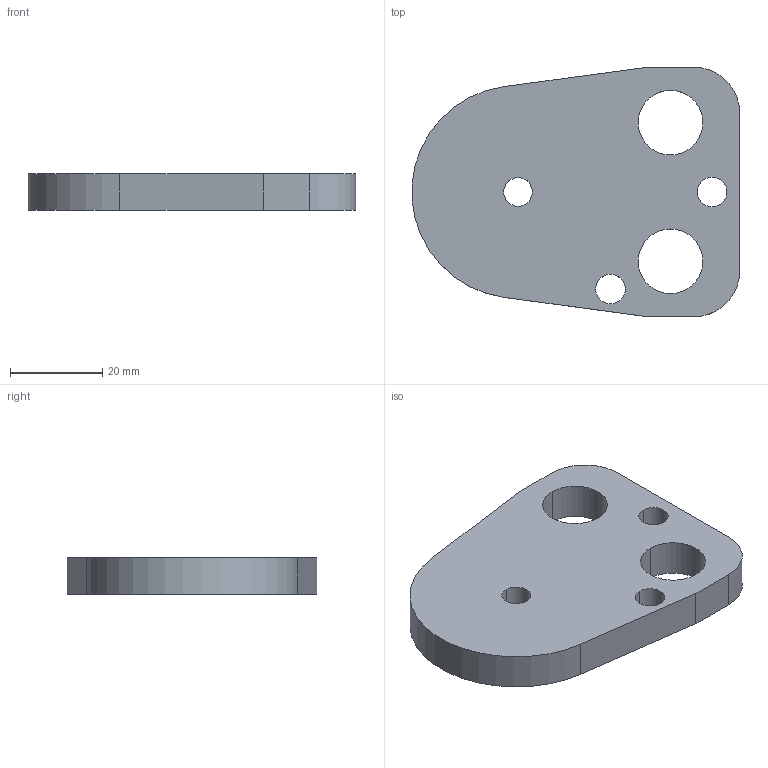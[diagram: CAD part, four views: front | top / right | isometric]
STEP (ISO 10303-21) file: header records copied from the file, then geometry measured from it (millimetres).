
FILE_DESCRIPTION(/* description */ (''),/* implementation_level */ '2;1');
FILE_NAME(/* name */ '3d_bpc32-8_03394_r00.stp',/* time_stamp */ '2011-01-10T14:17:09+09:00',/* author */ ('MISUMI'),/* organization */ (''),/* preprocessor_version */ 'ST-DEVELOPER v11',/* originating_system */ 'UGS - NX 5.0',/* authorisation */ '');
FILE_SCHEMA (('CONFIG_CONTROL_DESIGN'));
Length unit declared in the file: millimetre
Products named in the file (1): 3d_bpc32-8_03394_r00
Bounding box: 70.92 x 54 x 8 mm (x, y, z)
Volume: 22975.4 mm3; surface area: 8638.9 mm2
Topology: 1 solids, 1 shells, 20 faces, 54 edges, 36 vertices
Faces by surface type: cylinder 13, plane 7
Entity records: 750 total; most frequent: DIRECTION 122, CARTESIAN_POINT 111, ORIENTED_EDGE 108, EDGE_CURVE 54, AXIS2_PLACEMENT_3D 47, VERTEX_POINT 36, EDGE_LOOP 30, LINE 28
